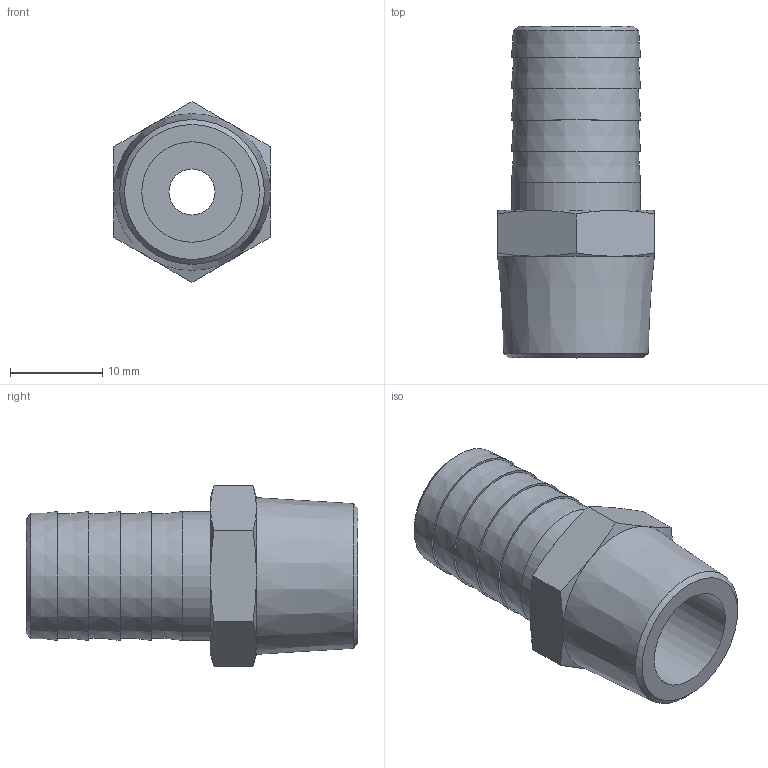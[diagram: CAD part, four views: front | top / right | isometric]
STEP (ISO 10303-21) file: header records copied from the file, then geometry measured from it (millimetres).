
FILE_DESCRIPTION(/* description */ (''),/* implementation_level */ '2;1');
FILE_NAME(/* name */ 'BXH09 14B3 00.stp',/* time_stamp */ '2026-06-22T11:18:21+02:00',/* author */ ('freju'),/* organization */ (''),/* preprocessor_version */ 'ST-DEVELOPER v20.1',/* originating_system */ 'Autodesk Inventor 2026',/* authorisation */ '');
FILE_SCHEMA (('AUTOMOTIVE_DESIGN { 1 0 10303 214 3 1 1 }'));
Length unit declared in the file: millimetre
Products named in the file (1): BXH09 14B3 00
Bounding box: 17 x 36 x 19.63 mm (x, y, z)
Volume: 4900.5 mm3; surface area: 2943.5 mm2
Topology: 1 solids, 1 shells, 37 faces, 74 edges, 45 vertices
Faces by surface type: cone 20, plane 14, cylinder 3
Full cylindrical faces by diameter (mm): 5 x1, 10.9 x1, 14 x1
Entity records: 980 total; most frequent: CARTESIAN_POINT 205, DIRECTION 159, ORIENTED_EDGE 148, EDGE_CURVE 74, AXIS2_PLACEMENT_3D 71, EDGE_LOOP 45, VERTEX_POINT 45, FACE_OUTER_BOUND 37
